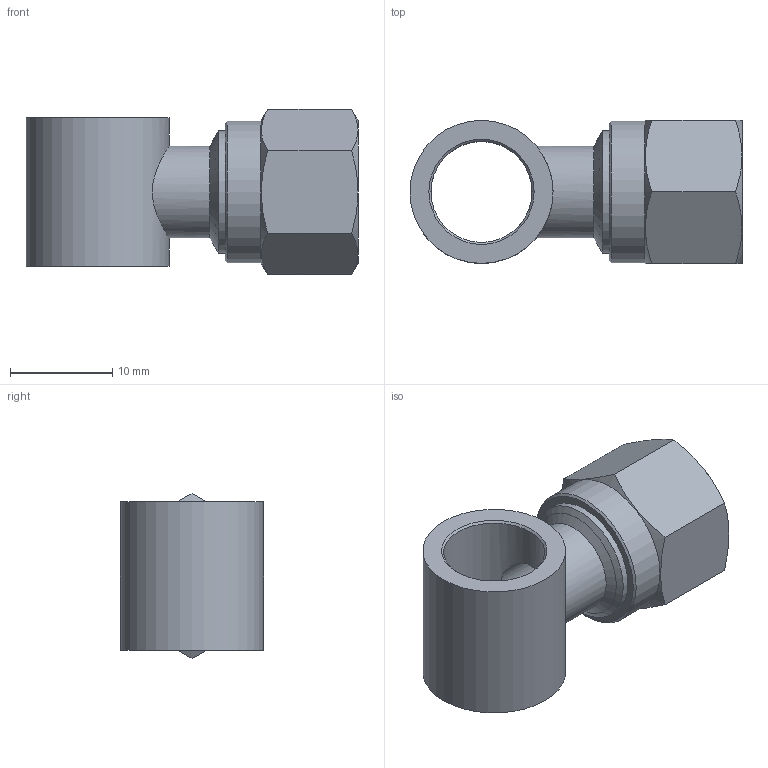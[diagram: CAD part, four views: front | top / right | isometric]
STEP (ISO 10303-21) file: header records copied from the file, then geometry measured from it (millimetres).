
FILE_DESCRIPTION(('Bauteilbeschreibung','HiCAD-Model','HiCAD-STEP-TRANSLATION','Bauteilbeschreibung'),'2;1');
FILE_NAME('B:/ABGLEICH/ZEICHNUNGEN/STEP FÜR INTERNET/STEP/216/95104_216_8_1-8.STP','2011-11-28T11:44:40+00:00',('Konstrukteur'),('Konstrukteur Firma GmbH'),' HiCAD neXt 2008, Step 3.1.1401.2J ','HiCAD neXt 2008','confidential');
FILE_SCHEMA(('AUTOMOTIVE_DESIGN { 1 2 10303 214 0 1 1 1 }'));
Length unit declared in the file: millimetre
Products named in the file (7): A5104_216_8_1_8; A5104; A51040; DIN 13_M12X1; A6803; A68030; DIN0130M12X1
Assembly tree (6 placements, depth 3):
  A5104_216_8_1_8
    A5104
    A51040
      DIN 13_M12X1
    A6803
    A68030
      DIN0130M12X1
Bounding box: 32.5 x 14 x 16.17 mm (x, y, z)
Volume: 2627.3 mm3; surface area: 4221.7 mm2
Topology: 4 solids, 4 shells, 46 faces, 103 edges, 65 vertices
Faces by surface type: cone 18, plane 15, cylinder 13
Full cylindrical faces by diameter (mm): 6 x1, 8 x2, 9 x1, 9.9 x1, 10.773 x3, 12 x3, 13.9 x1, 14 x1
Entity records: 2852 total; most frequent: CARTESIAN_POINT 1542, DIRECTION 198, ORIENTED_EDGE 128, AXIS2_PLACEMENT_3D 96, EDGE_LOOP 82, COLOUR_RGB 66, PRESENTATION_STYLE_ASSIGNMENT 66, EDGE_CURVE 64
